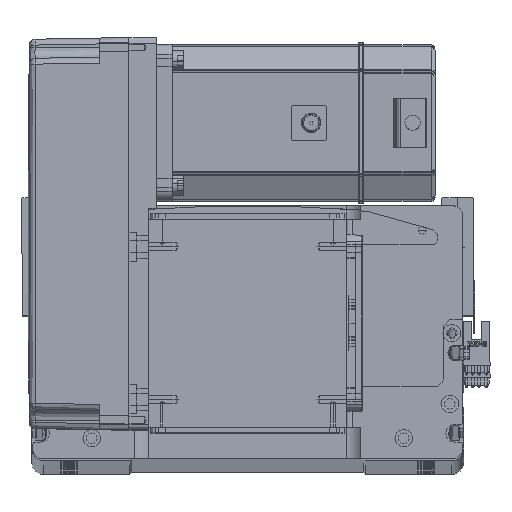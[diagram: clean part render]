
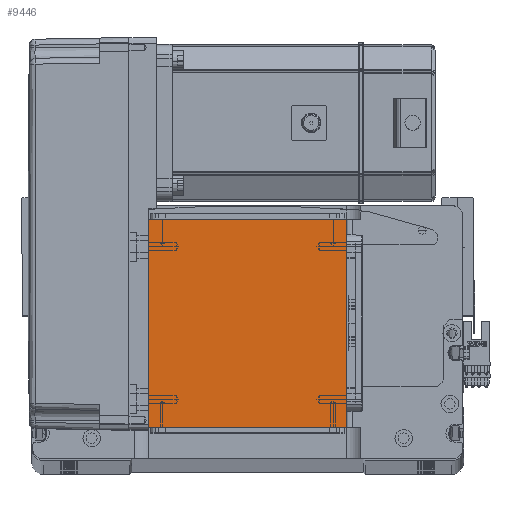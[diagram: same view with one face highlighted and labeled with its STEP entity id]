
A CAD part, top view. The second image highlights one B-rep face of the part: STEP entity #9446.
In plain terms, the highlighted planar face has unit normal (0, 0, 1).
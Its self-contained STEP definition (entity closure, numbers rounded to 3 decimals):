
#123 = EDGE_CURVE ( 'NONE', #12229, #23934, #44702, .T. ) ;
#4289 = DIRECTION ( 'NONE',  ( 0., -1., 0. ) ) ;
#6168 = EDGE_CURVE ( 'NONE', #23934, #39406, #56874, .T. ) ;
#9361 = CARTESIAN_POINT ( 'NONE',  ( 50.5, 122., 115. ) ) ;
#9446 = ADVANCED_FACE ( 'NONE', ( #12317 ), #19969, .T. ) ;
#11096 = DIRECTION ( 'NONE',  ( 0., 0., 1. ) ) ;
#12229 = VERTEX_POINT ( 'NONE', #41361 ) ;
#12317 = FACE_OUTER_BOUND ( 'NONE', #12694, .T. ) ;
#12694 = EDGE_LOOP ( 'NONE', ( #15531, #36789, #48415, #36416 ) ) ;
#15528 = EDGE_CURVE ( 'NONE', #39406, #34219, #60704, .T. ) ;
#15531 = ORIENTED_EDGE ( 'NONE', *, *, #123, .T. ) ;
#16700 = AXIS2_PLACEMENT_3D ( 'NONE', #53971, #11096, #20778 ) ;
#19969 = PLANE ( 'NONE',  #16700 ) ;
#20778 = DIRECTION ( 'NONE',  ( 1., 0., 0. ) ) ;
#23298 = DIRECTION ( 'NONE',  ( 0., 1., 0. ) ) ;
#23934 = VERTEX_POINT ( 'NONE', #53195 ) ;
#26923 = CARTESIAN_POINT ( 'NONE',  ( -50.5, 16., 115. ) ) ;
#34219 = VERTEX_POINT ( 'NONE', #9361 ) ;
#36063 = CARTESIAN_POINT ( 'NONE',  ( -50.5, 122., 115. ) ) ;
#36416 = ORIENTED_EDGE ( 'NONE', *, *, #38387, .T. ) ;
#36789 = ORIENTED_EDGE ( 'NONE', *, *, #6168, .T. ) ;
#38387 = EDGE_CURVE ( 'NONE', #34219, #12229, #59105, .T. ) ;
#39406 = VERTEX_POINT ( 'NONE', #43297 ) ;
#41361 = CARTESIAN_POINT ( 'NONE',  ( -50.5, 122., 115. ) ) ;
#43297 = CARTESIAN_POINT ( 'NONE',  ( 50.5, 16., 115. ) ) ;
#43403 = VECTOR ( 'NONE', #55880, 1000. ) ;
#44346 = VECTOR ( 'NONE', #23298, 1000. ) ;
#44702 = LINE ( 'NONE', #47398, #57415 ) ;
#47398 = CARTESIAN_POINT ( 'NONE',  ( -50.5, 122., 115. ) ) ;
#48415 = ORIENTED_EDGE ( 'NONE', *, *, #15528, .T. ) ;
#53195 = CARTESIAN_POINT ( 'NONE',  ( -50.5, 16., 115. ) ) ;
#53971 = CARTESIAN_POINT ( 'NONE',  ( 0., 0., 115. ) ) ;
#55880 = DIRECTION ( 'NONE',  ( 1., 0., 0. ) ) ;
#56874 = LINE ( 'NONE', #26923, #43403 ) ;
#57004 = DIRECTION ( 'NONE',  ( -1., 0., 0. ) ) ;
#57415 = VECTOR ( 'NONE', #4289, 1000. ) ;
#59105 = LINE ( 'NONE', #36063, #60598 ) ;
#60193 = CARTESIAN_POINT ( 'NONE',  ( 50.5, 122., 115. ) ) ;
#60598 = VECTOR ( 'NONE', #57004, 1000. ) ;
#60704 = LINE ( 'NONE', #60193, #44346 ) ;
